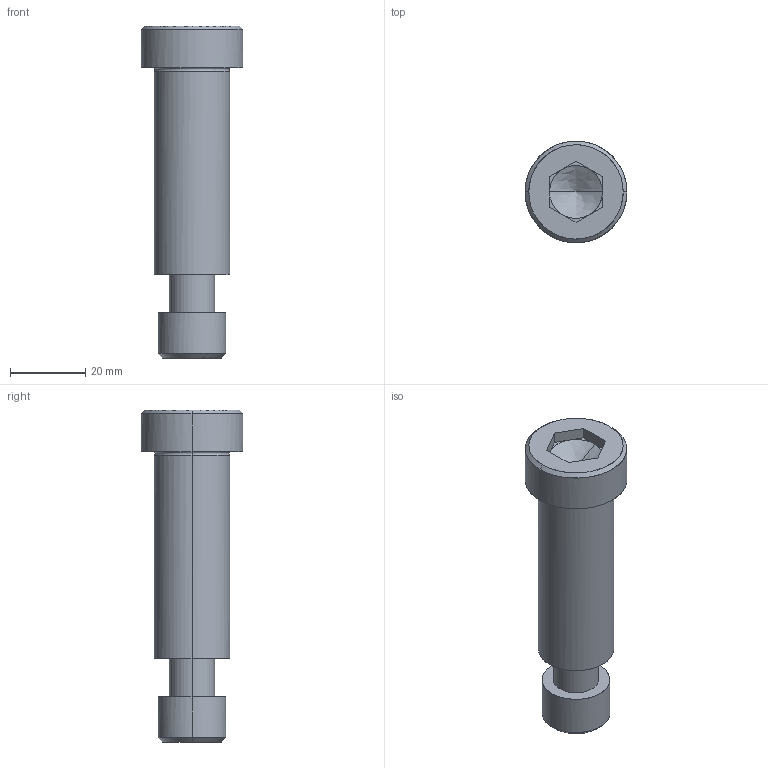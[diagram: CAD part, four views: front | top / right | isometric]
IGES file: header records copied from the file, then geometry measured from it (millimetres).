
Global section: file name: E:\UnigraphicsGraphicData\MISUMI_PRESS-PARTS\IGES\3d_sbtc20-55_05108_r00.igs; native system: NX V5.0; preprocessor: UGS NX IGES V5.0; author: MISUMI; date: 20110105.162450; units: millimetre
Bounding box: 27 x 27 x 88 mm (x, y, z)
Surface area: 8942.5 mm2 (no closed solid volume)
Topology: 0 solids, 0 shells, 52 faces, 294 edges, 290 vertices
Faces by surface type: bspline 52
